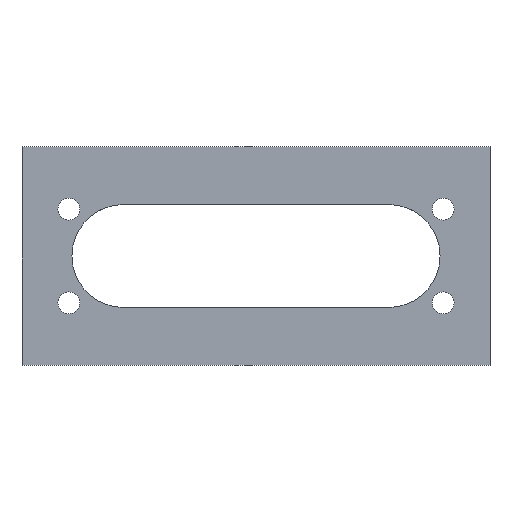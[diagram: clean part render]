
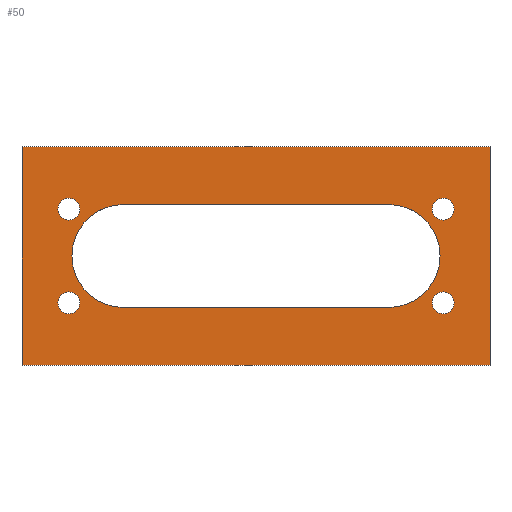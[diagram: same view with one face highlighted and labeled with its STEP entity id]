
A CAD part, top view. The second image highlights one B-rep face of the part: STEP entity #50.
In plain terms, the highlighted planar face has unit normal (0, 0, 1).
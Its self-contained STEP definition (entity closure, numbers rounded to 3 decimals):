
#50=ADVANCED_FACE('',(#109,#110,#111,#112,#113,#114),#115,.T.);
#109=FACE_BOUND('',#178,.T.);
#110=FACE_BOUND('',#179,.T.);
#111=FACE_BOUND('',#180,.T.);
#112=FACE_BOUND('',#181,.T.);
#113=FACE_BOUND('',#182,.T.);
#114=FACE_OUTER_BOUND('',#183,.T.);
#115=PLANE('',#184);
#178=EDGE_LOOP('',(#271,#272,#273,#274,#275,#276));
#179=EDGE_LOOP('',(#277));
#180=EDGE_LOOP('',(#278));
#181=EDGE_LOOP('',(#279));
#182=EDGE_LOOP('',(#280));
#183=EDGE_LOOP('',(#281,#282,#283,#284));
#184=AXIS2_PLACEMENT_3D('',#285,#286,#287);
#271=ORIENTED_EDGE('',*,*,#388,.F.);
#272=ORIENTED_EDGE('',*,*,#389,.F.);
#273=ORIENTED_EDGE('',*,*,#390,.F.);
#274=ORIENTED_EDGE('',*,*,#391,.F.);
#275=ORIENTED_EDGE('',*,*,#392,.F.);
#276=ORIENTED_EDGE('',*,*,#393,.F.);
#277=ORIENTED_EDGE('',*,*,#394,.F.);
#278=ORIENTED_EDGE('',*,*,#395,.F.);
#279=ORIENTED_EDGE('',*,*,#396,.T.);
#280=ORIENTED_EDGE('',*,*,#397,.T.);
#281=ORIENTED_EDGE('',*,*,#383,.T.);
#282=ORIENTED_EDGE('',*,*,#386,.T.);
#283=ORIENTED_EDGE('',*,*,#380,.T.);
#284=ORIENTED_EDGE('',*,*,#361,.T.);
#285=CARTESIAN_POINT('',(-75.0,-35.0,0.0));
#286=DIRECTION('',(0.0,0.0,1.0));
#287=DIRECTION('',(0.0,-1.0,0.0));
#361=EDGE_CURVE('',#415,#416,#417,.T.);
#380=EDGE_CURVE('',#450,#415,#451,.T.);
#383=EDGE_CURVE('',#416,#454,#455,.T.);
#386=EDGE_CURVE('',#454,#450,#458,.T.);
#388=EDGE_CURVE('',#460,#461,#462,.T.);
#389=EDGE_CURVE('',#463,#460,#464,.T.);
#390=EDGE_CURVE('',#465,#463,#466,.T.);
#391=EDGE_CURVE('',#467,#465,#468,.T.);
#392=EDGE_CURVE('',#469,#467,#470,.T.);
#393=EDGE_CURVE('',#461,#469,#471,.T.);
#394=EDGE_CURVE('',#472,#472,#473,.T.);
#395=EDGE_CURVE('',#474,#474,#475,.T.);
#396=EDGE_CURVE('',#476,#476,#477,.T.);
#397=EDGE_CURVE('',#478,#478,#479,.T.);
#415=VERTEX_POINT('',#497);
#416=VERTEX_POINT('',#498);
#417=LINE('',#499,#500);
#450=VERTEX_POINT('',#541);
#451=LINE('',#542,#543);
#454=VERTEX_POINT('',#547);
#455=LINE('',#548,#549);
#458=LINE('',#553,#554);
#460=VERTEX_POINT('',#556);
#461=VERTEX_POINT('',#557);
#462=CIRCLE('',#558,16.5);
#463=VERTEX_POINT('',#559);
#464=CIRCLE('',#560,16.5);
#465=VERTEX_POINT('',#561);
#466=LINE('',#562,#563);
#467=VERTEX_POINT('',#564);
#468=CIRCLE('',#565,16.5);
#469=VERTEX_POINT('',#566);
#470=CIRCLE('',#567,16.5);
#471=LINE('',#568,#569);
#472=VERTEX_POINT('',#570);
#473=CIRCLE('',#571,3.5);
#474=VERTEX_POINT('',#572);
#475=CIRCLE('',#573,3.5);
#476=VERTEX_POINT('',#574);
#477=CIRCLE('',#575,3.5);
#478=VERTEX_POINT('',#576);
#479=CIRCLE('',#577,3.5);
#497=CARTESIAN_POINT('',(75.0,35.0,0.0));
#498=CARTESIAN_POINT('',(-75.0,35.0,0.0));
#499=CARTESIAN_POINT('',(75.0,35.0,0.0));
#500=VECTOR('',#600,1.0);
#541=CARTESIAN_POINT('',(75.0,-35.0,0.0));
#542=CARTESIAN_POINT('',(75.0,-35.0,0.0));
#543=VECTOR('',#633,1.0);
#547=CARTESIAN_POINT('',(-75.0,-35.0,0.0));
#548=CARTESIAN_POINT('',(-75.0,35.0,0.0));
#549=VECTOR('',#635,1.0);
#553=CARTESIAN_POINT('',(-75.0,-35.0,0.0));
#554=VECTOR('',#637,1.0);
#556=CARTESIAN_POINT('',(-59.0,0.,0.0));
#557=CARTESIAN_POINT('',(-42.5,-16.5,0.0));
#558=AXIS2_PLACEMENT_3D('',#638,#639,#640);
#559=CARTESIAN_POINT('',(-42.5,16.5,0.0));
#560=AXIS2_PLACEMENT_3D('',#641,#642,#643);
#561=CARTESIAN_POINT('',(42.5,16.5,0.0));
#562=CARTESIAN_POINT('',(42.5,16.5,0.0));
#563=VECTOR('',#644,1.0);
#564=CARTESIAN_POINT('',(59.0,0.,0.0));
#565=AXIS2_PLACEMENT_3D('',#645,#646,#647);
#566=CARTESIAN_POINT('',(42.5,-16.5,0.0));
#567=AXIS2_PLACEMENT_3D('',#648,#649,#650);
#568=CARTESIAN_POINT('',(-42.5,-16.5,0.0));
#569=VECTOR('',#651,1.0);
#570=CARTESIAN_POINT('',(56.5,15.0,0.));
#571=AXIS2_PLACEMENT_3D('',#652,#653,#654);
#572=CARTESIAN_POINT('',(-56.5,-15.0,0.));
#573=AXIS2_PLACEMENT_3D('',#655,#656,#657);
#574=CARTESIAN_POINT('',(56.5,-15.0,0.));
#575=AXIS2_PLACEMENT_3D('',#658,#659,#660);
#576=CARTESIAN_POINT('',(-56.5,15.0,0.));
#577=AXIS2_PLACEMENT_3D('',#661,#662,#663);
#600=DIRECTION('',(-1.0,0.0,0.0));
#633=DIRECTION('',(0.0,1.0,0.0));
#635=DIRECTION('',(0.0,-1.0,0.0));
#637=DIRECTION('',(1.0,0.0,0.0));
#638=CARTESIAN_POINT('',(-42.5,0.,0.0));
#639=DIRECTION('',(0.0,0.0,1.0));
#640=DIRECTION('',(-1.0,0.,0.0));
#641=CARTESIAN_POINT('',(-42.5,0.,0.0));
#642=DIRECTION('',(0.0,-0.0,1.0));
#643=DIRECTION('',(0.,1.0,0.0));
#644=DIRECTION('',(-1.0,0.0,0.0));
#645=CARTESIAN_POINT('',(42.5,0.,0.0));
#646=DIRECTION('',(0.0,0.0,1.0));
#647=DIRECTION('',(1.0,0.,0.0));
#648=CARTESIAN_POINT('',(42.5,0.,0.0));
#649=DIRECTION('',(0.0,0.0,1.0));
#650=DIRECTION('',(0.,-1.0,0.0));
#651=DIRECTION('',(1.0,0.0,0.0));
#652=CARTESIAN_POINT('',(60.0,15.0,0.));
#653=DIRECTION('',(0.0,0.0,1.0));
#654=DIRECTION('',(-1.0,0.0,0.0));
#655=CARTESIAN_POINT('',(-60.0,-15.0,0.));
#656=DIRECTION('',(0.0,0.0,1.0));
#657=DIRECTION('',(1.0,0.0,0.0));
#658=CARTESIAN_POINT('',(60.0,-15.0,0.));
#659=DIRECTION('',(0.0,0.0,-1.0));
#660=DIRECTION('',(-1.0,0.0,0.0));
#661=CARTESIAN_POINT('',(-60.0,15.0,0.));
#662=DIRECTION('',(0.0,0.0,-1.0));
#663=DIRECTION('',(1.0,0.0,0.0));
